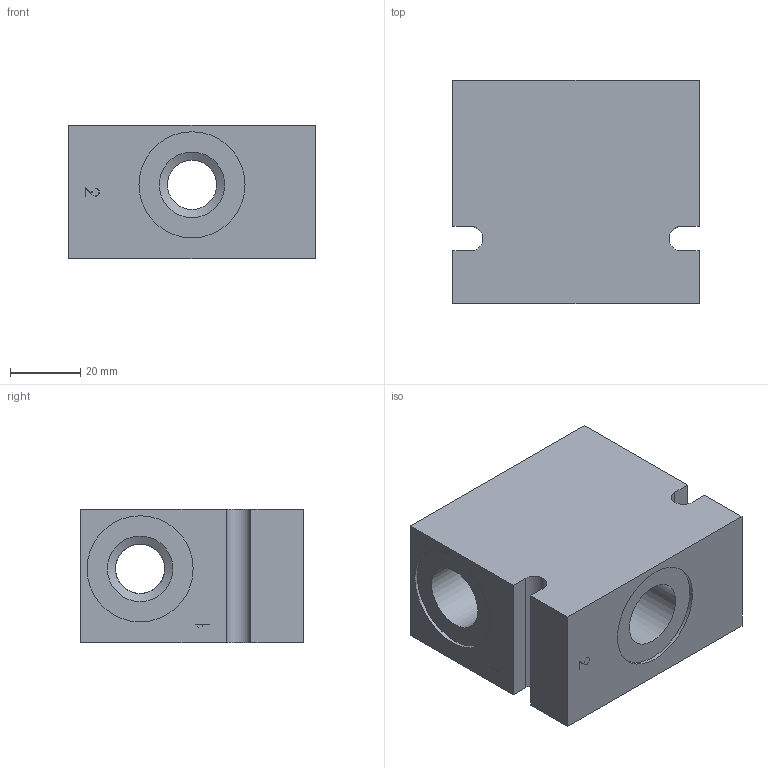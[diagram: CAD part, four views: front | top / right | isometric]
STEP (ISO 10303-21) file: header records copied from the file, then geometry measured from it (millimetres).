
FILE_DESCRIPTION( ( 'Unknown' ), '1' );
FILE_NAME( 'G:/Graphic Design/Graphic Design 2/Data Sheets/Delta Bodies/3_STP/B-DDEC3.stp', 'Unknown', ( 'Unknown' ), ( 'Unknown' ), 'PSStep 16.0.42', 'Unknown', ' ' );
FILE_SCHEMA( ( 'AUTOMOTIVE_DESIGN { 1 0 10303 214 1 1 1 1 }' ) );
Length unit declared in the file: millimetre
Products named in the file (1): 1
Bounding box: 70 x 63.5 x 38.1 mm (x, y, z)
Surface area: 25432.3 mm2 (no closed solid volume)
Topology: 0 solids, 98 shells, 98 faces, 476 edges, 448 vertices
Faces by surface type: plane 68, cylinder 22, cone 8
Full cylindrical faces by diameter (mm): 0.2 x3, 14 x3, 15.9 x1, 17.043 x1, 18.631 x6, 20.262 x2, 30.17 x3, 30.175 x1
Entity records: 5334 total; most frequent: CARTESIAN_POINT 1479, DIRECTION 518, ORIENTED_EDGE 430, EDGE_CURVE 430, VERTEX_POINT 430, B_SPLINE_CURVE_WITH_KNOTS 192, AXIS2_PLACEMENT_3D 181, LINE 156
